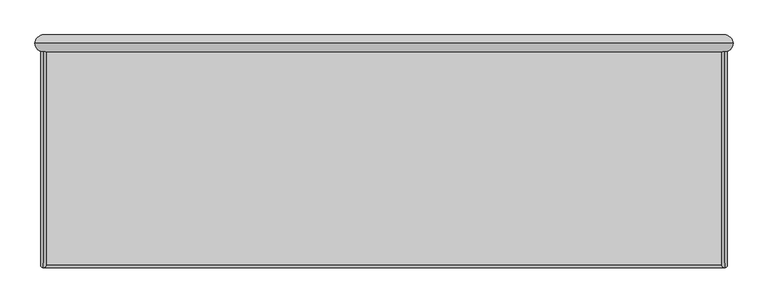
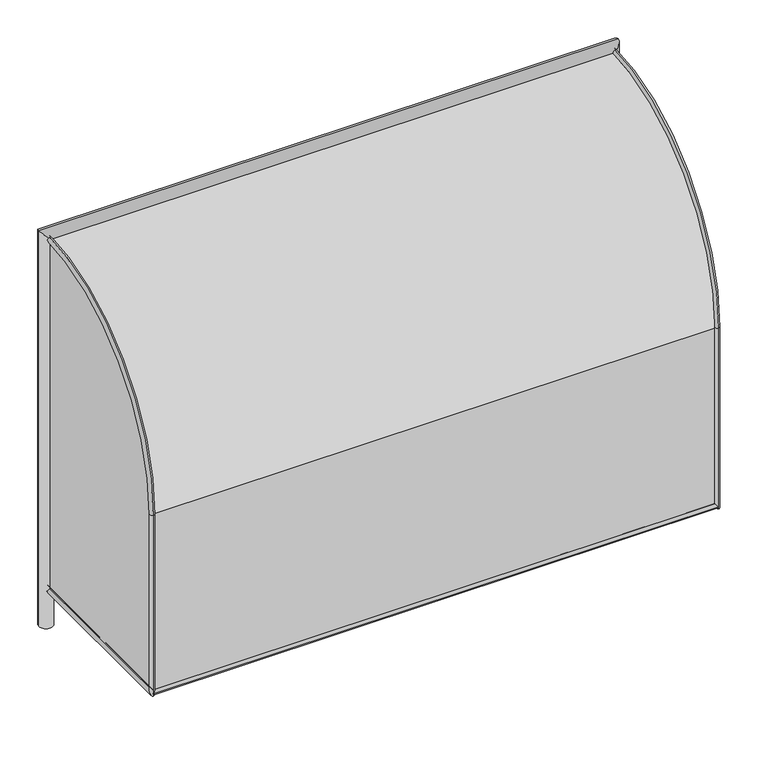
"""IFC4 building model written with IfcOpenShell, lengths in millimetres: proxy geometry, FDE_QE03_QE45_QE46_QE47_TraveFutebolSalão : QE46_LajeAlveolar."""

from ifc_helpers import new_model, si_unit, point, frame, frame_2d, origin, place, context, project, spatial, polyline, circle_curve, ellipse_curve, trimmed, segment, composite_curve, outline, extrude, source, transform, mapped, element, save
from ifc_brep_helpers import plane_surface, cylinder_surface, revolved_surface, advanced_brep


def specialty_equipment_ff35014a(model_context):
    return source(origin(), model_context, "Body", "SolidModel", [
        advanced_brep(
        [(1538.1, 0.0, 25.4), (1538.1, 0.0, 0.0), (1538.1, -987.3, 25.4), (1538.1, -1012.7, 0.0), (1538.1, -987.3, 1038.1), (1538.1, -1012.7, 1038.1), (1538.1, 0.0, 2025.4), (1538.1, 0.0, 2050.8)],
        [
            (0, 1, circle_curve(frame((1538.1, 0.0, 12.7), z_axis=(0.0, 1.0, 0.0), x_axis=(0.0, 0.0, -1.0)), 12.7)),
            (1, 0, circle_curve(frame((1538.1, 0.0, 12.7), z_axis=(0.0, 1.0, 0.0), x_axis=(0.0, 0.0, -1.0)), 12.7)),
            (0, 2),
            (2, 3, ellipse_curve(frame((1538.1, -1000.0, 12.7), z_axis=(0.0, 0.7071067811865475, -0.7071067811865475), x_axis=(0.0, 0.7071067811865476, 0.7071067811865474)), 17.9605122, 12.7)),
            (3, 1),
            (3, 2, ellipse_curve(frame((1538.1, -1000.0, 12.7), z_axis=(0.0, 0.7071067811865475, -0.7071067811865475), x_axis=(0.0, 0.7071067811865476, 0.7071067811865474)), 17.9605122, 12.7)),
            (2, 4),
            (4, 5, circle_curve(frame((1538.1, -1000.0, 1038.1), z_axis=(0.0, 0.0, -1.0), x_axis=(0.0, -1.0, 0.0)), 12.7)),
            (5, 3),
            (5, 4, circle_curve(frame((1538.1, -1000.0, 1038.1), z_axis=(0.0, 0.0, -1.0), x_axis=(0.0, -1.0, 0.0)), 12.7)),
            (6, 7, circle_curve(frame((1538.1, 0.0, 2038.1), z_axis=(0.0, 1.0, 0.0), x_axis=(0.0, 0.0, 1.0)), 12.7)),
            (7, 6, circle_curve(frame((1538.1, 0.0, 2038.1), z_axis=(0.0, 1.0, 0.0), x_axis=(0.0, 0.0, 1.0)), 12.7)),
            (7, 5, circle_curve(frame((1538.1, 0.0, 1038.1), z_axis=(1.0, 0.0, 0.0), x_axis=(0.0, -1.0, 0.0)), 1012.7)),
            (4, 6, circle_curve(frame((1538.1, 0.0, 1038.1), z_axis=(-1.0, 0.0, 0.0), x_axis=(0.0, -1.0, 0.0)), 987.3)),
        ],
        [
            plane_surface(frame((1538.1, 0.0, 12.7), z_axis=(0.0, 1.0, 0.0), x_axis=(1.0, 0.0, 0.0))),
            cylinder_surface(frame((1538.1, 0.0, 12.7), z_axis=(0.0, 1.0, 0.0), x_axis=(0.0, 0.0, -1.0)), 12.7),
            cylinder_surface(frame((1538.1, -1000.0, 12.7), z_axis=(0.0, 0.0, -1.0), x_axis=(0.0, -1.0, 0.0)), 12.7),
            plane_surface(frame((1538.1, 0.0, 2038.1), z_axis=(0.0, 1.0, 0.0), x_axis=(1.0, 0.0, 0.0))),
            revolved_surface(trimmed(ellipse_curve(frame((1538.1, -1000.0, 1038.1), z_axis=(0.0, 0.0, 1.0), x_axis=(0.0, -1.0, 0.0)), 12.7, 12.7), [point((1538.1, -1012.7, 1038.1))], [point((1538.1, -987.3, 1038.1))], True, "CARTESIAN"), (1538.1, 0.0, 1038.1), (1.0, 0.0, 0.0)),
            revolved_surface(trimmed(ellipse_curve(frame((1538.1, -1000.0, 1038.1), z_axis=(0.0, 0.0, 1.0), x_axis=(0.0, -1.0, 0.0)), 12.7, 12.7), [point((1538.1, -987.3, 1038.1))], [point((1538.1, -1012.7, 1038.1))], True, "CARTESIAN"), (1538.1, 0.0, 1038.1), (1.0, 0.0, 0.0)),
        ],
        [
            (0, [[1, 2]]),
            (1, [[3, 4, 5, -1]]),
            (1, [[-5, 6, -3, -2]]),
            (2, [[7, 8, 9, -4]]),
            (2, [[-9, 10, -7, -6]]),
            (3, [[11, 12]]),
            (4, [[-12, 13, -8, 14]]),
            (5, [[-11, -14, -10, -13]]),
        ],
    ),
        extrude(outline(composite_curve([segment(trimmed(circle_curve(frame_2d((-1000.0, 12.7)), 12.7), [point((-987.3, 12.7))], [point((-1012.7, 12.7))], False, "CARTESIAN"), True, "CONTINUOUS"), segment(trimmed(circle_curve(frame_2d((-1000.0, 12.7)), 12.7), [point((-1012.7, 12.7))], [point((-987.3, 12.7))], False, "CARTESIAN"), True, "CONTINUOUS")], self_intersect=False)), frame((-1538.1, 0.0, 0.0), z_axis=(1.0, 0.0, 0.0), x_axis=(0.0, 1.0, 0.0)), (0.0, 0.0, 1.0), 3076.2),
        advanced_brep(
        [(-1538.1, 0.0, 25.4), (-1538.1, 0.0, 0.0), (-1538.1, -1012.7, 0.0), (-1538.1, -987.3, 25.4), (-1538.1, -1012.7, 1038.1), (-1538.1, -987.3, 1038.1), (-1538.1, 0.0, 2025.4), (-1538.1, 0.0, 2050.8)],
        [
            (0, 1, circle_curve(frame((-1538.1, 0.0, 12.7), z_axis=(0.0, 1.0, 0.0), x_axis=(0.0, 0.0, -1.0)), 12.7)),
            (1, 0, circle_curve(frame((-1538.1, 0.0, 12.7), z_axis=(0.0, 1.0, 0.0), x_axis=(0.0, 0.0, -1.0)), 12.7)),
            (1, 2),
            (2, 3, ellipse_curve(frame((-1538.1, -1000.0, 12.7), z_axis=(0.0, 0.7071067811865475, -0.7071067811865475), x_axis=(0.0, 0.7071067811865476, 0.7071067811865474)), 17.9605122, 12.7)),
            (3, 0),
            (3, 2, ellipse_curve(frame((-1538.1, -1000.0, 12.7), z_axis=(0.0, 0.7071067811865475, -0.7071067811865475), x_axis=(0.0, 0.7071067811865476, 0.7071067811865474)), 17.9605122, 12.7)),
            (2, 4),
            (4, 5, circle_curve(frame((-1538.1, -1000.0, 1038.1), z_axis=(0.0, 0.0, -1.0), x_axis=(0.0, -1.0, 0.0)), 12.7)),
            (5, 3),
            (5, 4, circle_curve(frame((-1538.1, -1000.0, 1038.1), z_axis=(0.0, 0.0, -1.0), x_axis=(0.0, -1.0, 0.0)), 12.7)),
            (6, 7, circle_curve(frame((-1538.1, 0.0, 2038.1), z_axis=(0.0, 1.0, 0.0), x_axis=(0.0, 0.0, 1.0)), 12.7)),
            (7, 6, circle_curve(frame((-1538.1, 0.0, 2038.1), z_axis=(0.0, 1.0, 0.0), x_axis=(0.0, 0.0, 1.0)), 12.7)),
            (6, 5, circle_curve(frame((-1538.1, 0.0, 1038.1), z_axis=(1.0, 0.0, 0.0), x_axis=(0.0, -1.0, 0.0)), 987.3)),
            (4, 7, circle_curve(frame((-1538.1, 0.0, 1038.1), z_axis=(-1.0, 0.0, 0.0), x_axis=(0.0, -1.0, 0.0)), 1012.7)),
        ],
        [
            plane_surface(frame((-1538.1, 0.0, 12.7), z_axis=(0.0, 1.0, 0.0), x_axis=(-1.0, 0.0, 0.0))),
            cylinder_surface(frame((-1538.1, 0.0, 12.7), z_axis=(0.0, 1.0, 0.0), x_axis=(0.0, 0.0, -1.0)), 12.7),
            cylinder_surface(frame((-1538.1, -1000.0, 12.7), z_axis=(0.0, 0.0, -1.0), x_axis=(0.0, -1.0, 0.0)), 12.7),
            plane_surface(frame((-1538.1, 0.0, 2038.1), z_axis=(0.0, 1.0, 0.0), x_axis=(-1.0, 0.0, 0.0))),
            revolved_surface(trimmed(ellipse_curve(frame((-1538.1, -1000.0, 1038.1), z_axis=(0.0, 0.0, 1.0), x_axis=(0.0, -1.0, 0.0)), 12.7, 12.7), [point((-1538.1, -987.3, 1038.1))], [point((-1538.1, -1012.7, 1038.1))], True, "CARTESIAN"), (-1538.1, 0.0, 1038.1), (1.0, 0.0, 0.0)),
            revolved_surface(trimmed(ellipse_curve(frame((-1538.1, -1000.0, 1038.1), z_axis=(0.0, 0.0, 1.0), x_axis=(0.0, -1.0, 0.0)), 12.7, 12.7), [point((-1538.1, -1012.7, 1038.1))], [point((-1538.1, -987.3, 1038.1))], True, "CARTESIAN"), (-1538.1, 0.0, 1038.1), (1.0, 0.0, 0.0)),
        ],
        [
            (0, [[1, 2]]),
            (1, [[3, 4, 5, -2]]),
            (1, [[-5, 6, -3, -1]]),
            (2, [[7, 8, 9, -4]]),
            (2, [[-9, 10, -7, -6]]),
            (3, [[11, 12]]),
            (4, [[-11, 13, -8, 14]]),
            (5, [[-12, -14, -10, -13]]),
        ],
    ),
        advanced_brep(
        [(-1576.2, 0.0, -200.0), (-1500.0, 0.0, -200.0), (1576.2, 0.0, -200.0), (1500.0, 0.0, -200.0), (-1500.0, 0.0, 2000.0), (-1576.2, 0.0, 2076.2), (1500.0, 0.0, 2000.0), (1576.2, 0.0, 2076.2)],
        [
            (0, 1, circle_curve(frame((-1538.1, 0.0, -200.0), z_axis=(0.0, 0.0, -1.0), x_axis=(1.0, 0.0, 0.0)), 38.1)),
            (1, 0, circle_curve(frame((-1538.1, 0.0, -200.0), z_axis=(0.0, 0.0, -1.0), x_axis=(1.0, 0.0, 0.0)), 38.1)),
            (2, 3, circle_curve(frame((1538.1, 0.0, -200.0), z_axis=(0.0, 0.0, -1.0), x_axis=(-1.0, 0.0, 0.0)), 38.1)),
            (3, 2, circle_curve(frame((1538.1, 0.0, -200.0), z_axis=(0.0, 0.0, -1.0), x_axis=(-1.0, 0.0, 0.0)), 38.1)),
            (1, 4),
            (4, 5, ellipse_curve(frame((-1538.1, 0.0, 2038.1), z_axis=(-0.7071067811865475, 0.0, -0.7071067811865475), x_axis=(0.7071067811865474, 0.0, -0.7071067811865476)), 53.8815367, 38.1)),
            (5, 0),
            (5, 4, ellipse_curve(frame((-1538.1, 0.0, 2038.1), z_axis=(-0.7071067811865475, 0.0, -0.7071067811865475), x_axis=(0.7071067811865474, 0.0, -0.7071067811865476)), 53.8815367, 38.1)),
            (4, 6),
            (6, 7, ellipse_curve(frame((1538.1, 0.0, 2038.1), z_axis=(-0.7071067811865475, 0.0, 0.7071067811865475), x_axis=(-0.7071067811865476, 0.0, -0.7071067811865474)), 53.8815367, 38.1)),
            (7, 5),
            (7, 6, ellipse_curve(frame((1538.1, 0.0, 2038.1), z_axis=(-0.7071067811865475, 0.0, 0.7071067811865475), x_axis=(-0.7071067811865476, 0.0, -0.7071067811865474)), 53.8815367, 38.1)),
            (6, 3),
            (2, 7),
        ],
        [
            plane_surface(frame((-1500.0, 0.0, -200.0), z_axis=(0.0, 0.0, -1.0), x_axis=(0.0, -1.0, 0.0))),
            plane_surface(frame((1500.0, 0.0, -200.0), z_axis=(0.0, 0.0, -1.0), x_axis=(0.0, -1.0, 0.0))),
            cylinder_surface(frame((-1538.1, 0.0, -200.0), z_axis=(0.0, 0.0, -1.0), x_axis=(1.0, 0.0, 0.0)), 38.1),
            cylinder_surface(frame((-1500.0, 0.0, 2038.1), z_axis=(-1.0, 0.0, 0.0), x_axis=(0.0, 0.0, -1.0)), 38.1),
            cylinder_surface(frame((1538.1, 0.0, 2000.0), z_axis=(0.0, 0.0, 1.0), x_axis=(-1.0, 0.0, 0.0)), 38.1),
        ],
        [
            (0, [[1, 2]]),
            (1, [[3, 4]]),
            (2, [[5, 6, 7, -2]]),
            (2, [[-7, 8, -5, -1]]),
            (3, [[9, 10, 11, -6]]),
            (3, [[-11, 12, -9, -8]]),
            (4, [[13, -3, 14, -10]]),
            (4, [[-14, -4, -13, -12]]),
        ],
    ),
        extrude(outline(composite_curve([segment(polyline([(-1000.0, 12.7), (-1000.0, 1038.1)]), True, "CONTINUOUS"), segment(trimmed(circle_curve(frame_2d((0.0, 1038.1)), 1000.0), [point((-1000.0, 1038.1))], [point((0.0, 2038.1))], False, "CARTESIAN"), True, "CONTINUOUS"), segment(polyline([(0.0, 2038.1), (0.0, 12.7), (-1000.0, 12.7)]), True, "CONTINUOUS")], self_intersect=False)), frame((-1539.1, 0.0, 0.0), z_axis=(1.0, 0.0, 0.0), x_axis=(0.0, 1.0, 0.0)), (0.0, 0.0, 1.0), 2.0),
        extrude(outline(composite_curve([segment(polyline([(-1000.0, 12.7), (-1000.0, 1038.1)]), True, "CONTINUOUS"), segment(trimmed(circle_curve(frame_2d((0.0, 1038.1)), 1000.0), [point((-1000.0, 1038.1))], [point((0.0, 2038.1))], False, "CARTESIAN"), True, "CONTINUOUS"), segment(polyline([(0.0, 2038.1), (0.0, 12.7), (-1000.0, 12.7)]), True, "CONTINUOUS")], self_intersect=False)), frame((1537.1, 0.0, 0.0), z_axis=(1.0, 0.0, 0.0), x_axis=(0.0, 1.0, 0.0)), (0.0, 0.0, 1.0), 2.0),
        extrude(outline(composite_curve([segment(polyline([(-1000.0, 12.7), (-1000.0, 1038.1)]), True, "CONTINUOUS"), segment(trimmed(circle_curve(frame_2d((0.0, 1038.1)), 1000.0), [point((-1000.0, 1038.1))], [point((0.0, 2038.1))], False, "CARTESIAN"), True, "CONTINUOUS"), segment(polyline([(0.0, 2038.1), (0.0, 12.7), (-1000.0, 12.7)]), True, "CONTINUOUS")], self_intersect=False)), frame((1537.1, 0.0, 0.0), z_axis=(1.0, 0.0, 0.0), x_axis=(0.0, 1.0, 0.0)), (0.0, 0.0, 1.0), 2.0),
        extrude(outline(composite_curve([segment(trimmed(circle_curve(frame_2d((0.0, 1038.1)), 1000.0), [point((-1000.0, 1038.1))], [point((0.0, 2038.1))], False, "CARTESIAN"), True, "CONTINUOUS"), segment(polyline([(0.0, 2038.1), (0.0, 2037.1)]), True, "CONTINUOUS"), segment(trimmed(circle_curve(frame_2d((0.0, 1038.1)), 999.0), [point((0.0, 2037.1))], [point((-999.0, 1038.1))], True, "CARTESIAN"), True, "CONTINUOUS"), segment(polyline([(-999.0, 1038.1), (-999.0, 12.7), (-1000.0, 12.7), (-1000.0, 1038.1)]), True, "CONTINUOUS")], self_intersect=False)), frame((-1538.1, 0.0, 0.0), z_axis=(1.0, 0.0, 0.0), x_axis=(0.0, 1.0, 0.0)), (0.0, 0.0, 1.0), 3076.2),
    ])


if __name__ == "__main__":
    model = new_model("IFC4")
    model_context = context("Model", 3, world=origin())
    ifc_project = project(units=[si_unit("LENGTHUNIT", "METRE", prefix="MILLI")], contexts=[model_context])
    site = spatial("IfcSite", under=ifc_project)
    building = spatial("IfcBuilding", under=site)
    placement = place(None, origin())
    specialty_equipment_shape = specialty_equipment_ff35014a(model_context)
    element("IfcBuildingElementProxy", 1, Name="FDE_QE03_QE45_QE46_QE47_TraveFutebolSalão : QE46_LajeAlveolar", ObjectType="FDE_QE03_QE45_QE46_QE47_TraveFutebolSalão : QE46_LajeAlveolar", at=placement, inside=building, context=model_context, shape_type="MappedRepresentation", body=[
        mapped(specialty_equipment_shape, transform((0.0, 0.0, 0.0), x_axis=(1.0, 0.0, 0.0), y_axis=(0.0, 1.0, 0.0), z_axis=(0.0, 0.0, 1.0))),
    ])
    save(model, "model.ifc")
